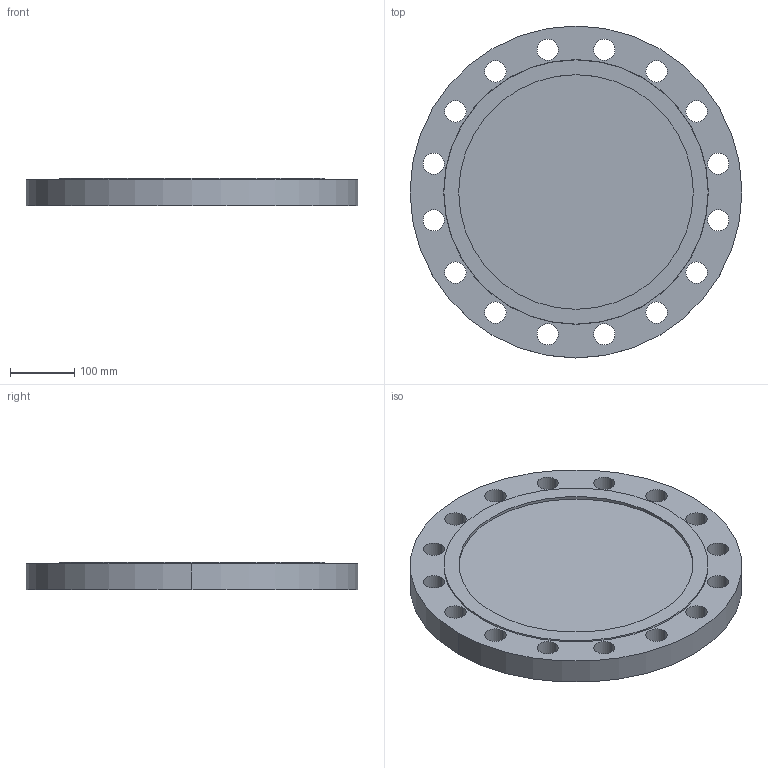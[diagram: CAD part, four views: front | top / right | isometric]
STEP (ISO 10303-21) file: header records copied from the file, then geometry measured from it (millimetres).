
FILE_DESCRIPTION (( 'STEP AP214' ), '1' );
FILE_NAME ('PN40 DN300 Type 05 - Type F Face.STEP', '2019-01-05T20:26:47', ( '' ), ( '' ), 'SwSTEP 2.0', 'SolidWorks 2019', '' );
FILE_SCHEMA (( 'AUTOMOTIVE_DESIGN' ));
Length unit declared in the file: millimetre
Products named in the file (1): PN40 DN300 Type 05 - Type F Face
Bounding box: 515 x 515 x 42 mm (x, y, z)
Volume: 7581123.9 mm3; surface area: 527621.5 mm2
Topology: 1 solids, 1 shells, 42 faces, 114 edges, 76 vertices
Faces by surface type: cylinder 36, plane 4, cone 2
Entity records: 1472 total; most frequent: DIRECTION 276, CARTESIAN_POINT 233, ORIENTED_EDGE 228, AXIS2_PLACEMENT_3D 119, EDGE_CURVE 114, CIRCLE 76, EDGE_LOOP 76, VERTEX_POINT 76
